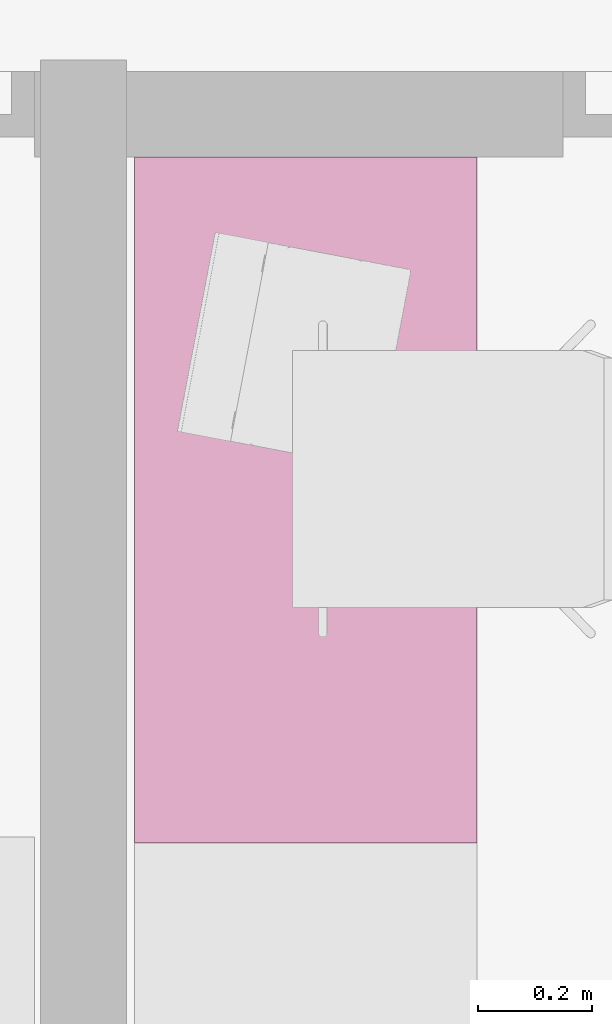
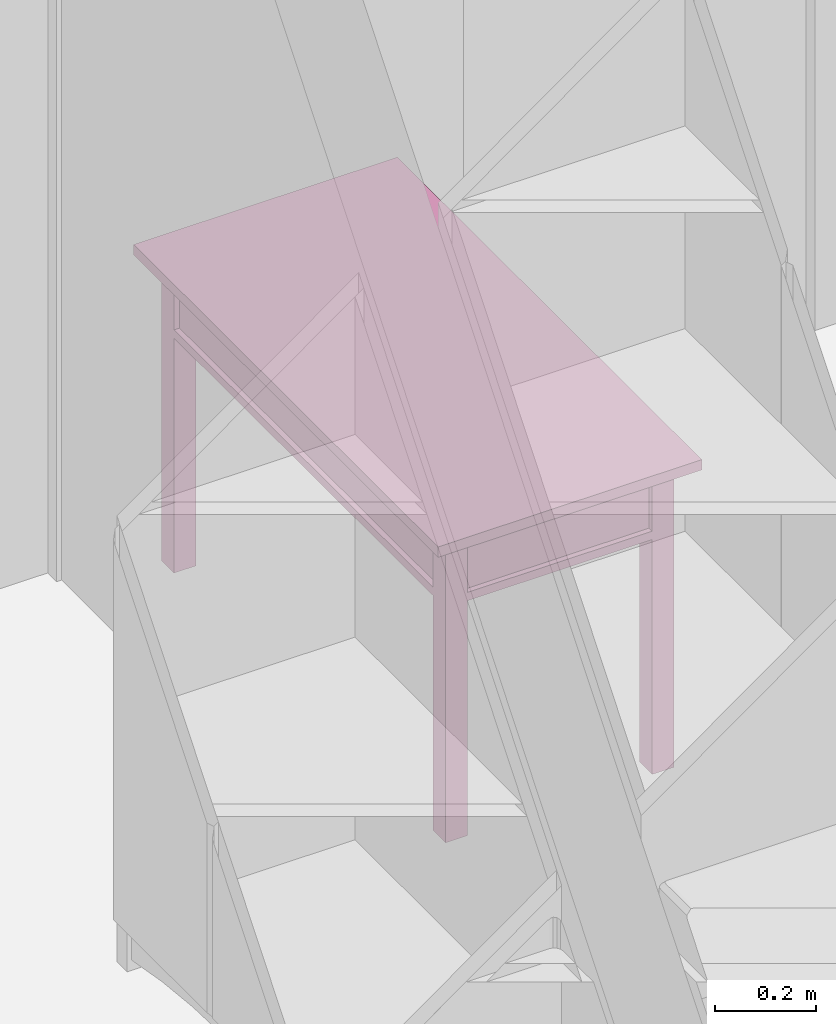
# One storey, part 124 of 165: 1 furnishing.
"""IFC2X3 building model written with IfcOpenShell, lengths in millimetres."""

from ifc_helpers import new_model, entity, si_unit, converted_unit, money_unit, direction, frame, origin_with_axes, place, context, subcontext, project, spatial, faceted_brep, source, transform, mapped, material, material_list, type_object, element, save


model = new_model("IFC2X3")

# Units and contexts
model_context = context("Model", 3, precision=1e-05, world=origin_with_axes(), true_north=direction((0.0, 1.0)))
body_context = subcontext(model_context, "Body", "Model", "MODEL_VIEW")
ifc_project = project(units=[si_unit("LENGTHUNIT", "METRE", prefix="MILLI"), si_unit("AREAUNIT", "SQUARE_METRE"), si_unit("VOLUMEUNIT", "CUBIC_METRE"), converted_unit("PLANEANGLEUNIT", "DEGREE", entity("IfcPlaneAngleMeasure", 0.0174532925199), si_unit("PLANEANGLEUNIT", "RADIAN"), dimensions=[0, 0, 0, 0, 0, 0, 0]), si_unit("SOLIDANGLEUNIT", "STERADIAN"), money_unit("USD"), converted_unit("TIMEUNIT", "Year", entity("IfcTimeMeasure", 31556926.0), si_unit("TIMEUNIT", "SECOND"), dimensions=[0, 0, 0, 0, 0, 0, 0]), si_unit("MASSUNIT", "GRAM"), si_unit("THERMODYNAMICTEMPERATUREUNIT", "DEGREE_CELSIUS"), si_unit("LUMINOUSINTENSITYUNIT", "LUMEN")], contexts=[model_context])

# Site, building, storey
site_placement = place(None, origin_with_axes())
site = spatial("IfcSite", under=ifc_project, at=site_placement, Name="Site", CompositionType="ELEMENT")
building_placement = place(site_placement, origin_with_axes())
building = spatial("IfcBuilding", under=site, at=building_placement, Name="Building", CompositionType="ELEMENT")
storey_placement = place(building_placement, frame((0.0, 0.0, 6300.0), z_axis=(0.0, 0.0, 1.0), x_axis=(1.0, 0.0, 0.0)))
storey = spatial("IfcBuildingStorey", under=building, at=storey_placement, Name="4KORRUS", CompositionType="ELEMENT", Elevation=6300.0)

# Furnishing
ifc_material = material(Name="Background")
ifc_material_list = material_list([ifc_material])
furnishing_element_type = type_object("IfcFurnishingElementType", Name="Rectangular Table 01 19")
shared_shape = source(origin_with_axes(), body_context, "Body", "Brep", [
    faceted_brep([(-90.0, 40.0, 0.0), (-90.0, 90.0, 0.0), (-40.0, 90.0, 0.0), (-40.0, 40.0, 0.0), (-90.0, 40.0, 725.0), (-90.0, 90.0, 725.0), (-40.0, 90.0, 725.0), (-40.0, 40.0, 725.0)], [[[0, 1, 2, 3]], [[0, 4, 5, 1]], [[1, 5, 6, 2]], [[2, 6, 7, 3]], [[3, 7, 4, 0]], [[7, 6, 5, 4]]]),
    faceted_brep([(-1160.0, 40.0, 0.0), (-1160.0, 90.0, 0.0), (-1110.0, 90.0, 0.0), (-1110.0, 40.0, 0.0), (-1160.0, 40.0, 725.0), (-1160.0, 90.0, 725.0), (-1110.0, 90.0, 725.0), (-1110.0, 40.0, 725.0)], [[[0, 1, 2, 3]], [[0, 4, 5, 1]], [[1, 5, 6, 2]], [[2, 6, 7, 3]], [[3, 7, 4, 0]], [[7, 6, 5, 4]]]),
    faceted_brep([(-90.0, 510.0, 0.0), (-90.0, 560.0, 0.0), (-40.0, 560.0, 0.0), (-40.0, 510.0, 0.0), (-90.0, 510.0, 725.0), (-90.0, 560.0, 725.0), (-40.0, 560.0, 725.0), (-40.0, 510.0, 725.0)], [[[0, 1, 2, 3]], [[0, 4, 5, 1]], [[1, 5, 6, 2]], [[2, 6, 7, 3]], [[3, 7, 4, 0]], [[7, 6, 5, 4]]]),
    faceted_brep([(-1160.0, 510.0, 0.0), (-1160.0, 560.0, 0.0), (-1110.0, 560.0, 0.0), (-1110.0, 510.0, 0.0), (-1160.0, 510.0, 725.0), (-1160.0, 560.0, 725.0), (-1110.0, 560.0, 725.0), (-1110.0, 510.0, 725.0)], [[[0, 1, 2, 3]], [[0, 4, 5, 1]], [[1, 5, 6, 2]], [[2, 6, 7, 3]], [[3, 7, 4, 0]], [[7, 6, 5, 4]]]),
    faceted_brep([(-1160.0, 40.0, 565.0), (-1160.0, 560.0, 565.0), (-40.0, 560.0, 565.0), (-40.0, 40.0, 565.0), (-1160.0, 40.0, 585.0), (-1160.0, 560.0, 585.0), (-40.0, 560.0, 585.0), (-40.0, 40.0, 585.0)], [[[0, 1, 2, 3]], [[0, 4, 5, 1]], [[1, 5, 6, 2]], [[2, 6, 7, 3]], [[3, 7, 4, 0]], [[7, 6, 5, 4]]]),
    faceted_brep([(-1110.0, 52.5, 585.0), (-1110.0, 77.5, 585.0), (-90.0, 77.5, 585.0), (-90.0, 52.5, 585.0), (-1110.0, 52.5, 745.0), (-1110.0, 77.5, 745.0), (-90.0, 77.5, 745.0), (-90.0, 52.5, 745.0)], [[[0, 1, 2, 3]], [[0, 4, 5, 1]], [[1, 5, 6, 2]], [[2, 6, 7, 3]], [[3, 7, 4, 0]], [[7, 6, 5, 4]]]),
    faceted_brep([(-77.5, 90.0, 585.0), (-77.5, 510.0, 585.0), (-52.5, 510.0, 585.0), (-52.5, 90.0, 585.0), (-77.5, 90.0, 745.0), (-77.5, 510.0, 745.0), (-52.5, 510.0, 745.0), (-52.5, 90.0, 745.0)], [[[0, 1, 2, 3]], [[0, 4, 5, 1]], [[1, 5, 6, 2]], [[2, 6, 7, 3]], [[3, 7, 4, 0]], [[7, 6, 5, 4]]]),
    faceted_brep([(-90.0, 547.5, 585.0), (-90.0, 522.5, 585.0), (-1110.0, 522.5, 585.0), (-1110.0, 547.5, 585.0), (-90.0, 547.5, 745.0), (-90.0, 522.5, 745.0), (-1110.0, 522.5, 745.0), (-1110.0, 547.5, 745.0)], [[[0, 1, 2, 3]], [[0, 4, 5, 1]], [[1, 5, 6, 2]], [[2, 6, 7, 3]], [[3, 7, 4, 0]], [[7, 6, 5, 4]]]),
    faceted_brep([(-1122.5, 510.0, 585.0), (-1122.5, 90.0, 585.0), (-1147.5, 90.0, 585.0), (-1147.5, 510.0, 585.0), (-1122.5, 510.0, 745.0), (-1122.5, 90.0, 745.0), (-1147.5, 90.0, 745.0), (-1147.5, 510.0, 745.0)], [[[0, 1, 2, 3]], [[0, 4, 5, 1]], [[1, 5, 6, 2]], [[2, 6, 7, 3]], [[3, 7, 4, 0]], [[7, 6, 5, 4]]]),
    faceted_brep([(-597.5, 40.0, 585.0), (-597.5, 60.0, 585.0), (-95.0, 60.0, 585.0), (-95.0, 40.0, 585.0), (-597.5, 40.0, 745.0), (-597.5, 60.0, 745.0), (-95.0, 60.0, 745.0), (-95.0, 40.0, 745.0)], [[[0, 1, 2, 3]], [[0, 4, 5, 1]], [[1, 5, 6, 2]], [[2, 6, 7, 3]], [[3, 7, 4, 0]], [[7, 6, 5, 4]]]),
    faceted_brep([(-1105.0, 40.0, 585.0), (-1105.0, 60.0, 585.0), (-602.5, 60.0, 585.0), (-602.5, 40.0, 585.0), (-1105.0, 40.0, 745.0), (-1105.0, 60.0, 745.0), (-602.5, 60.0, 745.0), (-602.5, 40.0, 745.0)], [[[0, 1, 2, 3]], [[0, 4, 5, 1]], [[1, 5, 6, 2]], [[2, 6, 7, 3]], [[3, 7, 4, 0]], [[7, 6, 5, 4]]]),
    faceted_brep([(-354.91, 40.0, 660.0), (-356.25, 40.0, 665.0), (-354.91, 40.0, 670.0), (-351.25, 40.0, 673.66), (-346.25, 40.0, 675.0), (-341.25, 40.0, 673.66), (-337.59, 40.0, 670.0), (-336.25, 40.0, 665.0), (-337.59, 40.0, 660.0), (-341.25, 40.0, 656.34), (-346.25, 40.0, 655.0), (-351.25, 40.0, 656.34), (-354.91, 25.0, 660.0), (-356.25, 25.0, 665.0), (-354.91, 25.0, 670.0), (-351.25, 25.0, 673.66), (-346.25, 25.0, 675.0), (-341.25, 25.0, 673.66), (-337.59, 25.0, 670.0), (-336.25, 25.0, 665.0), (-337.59, 25.0, 660.0), (-341.25, 25.0, 656.34), (-346.25, 25.0, 655.0), (-351.25, 25.0, 656.34)], [[[0, 1, 2, 3, 4, 5, 6, 7, 8, 9, 10, 11]], [[0, 12, 13, 1]], [[1, 13, 14, 2]], [[2, 14, 15, 3]], [[3, 15, 16, 4]], [[4, 16, 17, 5]], [[5, 17, 18, 6]], [[6, 18, 19, 7]], [[7, 19, 20, 8]], [[8, 20, 21, 9]], [[9, 21, 22, 10]], [[10, 22, 23, 11]], [[11, 23, 12, 0]], [[12, 23, 22, 21, 20, 19, 18, 17, 16, 15, 14, 13]]]),
    faceted_brep([(-356.25, 12.01, 665.0), (-354.91, 12.01, 660.0), (-346.25, 10.0, 665.0), (-363.571, 17.5, 665.0), (-361.25, 17.5, 656.34), (-351.25, 12.01, 656.34), (-354.91, 12.01, 670.0), (-366.25, 25.0, 665.0), (-363.571, 25.0, 655.0), (-354.91, 17.5, 650.0), (-361.25, 17.5, 673.66), (-346.25, 12.01, 655.0), (-351.25, 12.01, 673.66), (-363.571, 25.0, 675.0), (-356.25, 25.0, 682.321), (-346.25, 25.0, 685.0), (-336.25, 25.0, 682.321), (-328.929, 25.0, 675.0), (-326.25, 25.0, 665.0), (-328.929, 25.0, 655.0), (-336.25, 25.0, 647.679), (-346.25, 25.0, 645.0), (-356.25, 25.0, 647.679), (-346.25, 17.5, 647.679), (-354.91, 17.5, 680.0), (-341.25, 12.01, 656.34), (-346.25, 12.01, 675.0), (-346.25, 17.5, 682.321), (-337.59, 17.5, 680.0), (-331.25, 17.5, 673.66), (-328.929, 17.5, 665.0), (-331.25, 17.5, 656.34), (-337.59, 17.5, 650.0), (-337.59, 12.01, 660.0), (-341.25, 12.01, 673.66), (-337.59, 12.01, 670.0), (-336.25, 12.01, 665.0)], [[[0, 1, 2]], [[3, 4, 1, 0]], [[1, 5, 2]], [[6, 0, 2]], [[7, 8, 4, 3]], [[4, 9, 5, 1]], [[10, 3, 0, 6]], [[5, 11, 2]], [[12, 6, 2]], [[8, 7, 13, 14, 15, 16, 17, 18, 19, 20, 21, 22]], [[8, 22, 9, 4]], [[13, 7, 3, 10]], [[9, 23, 11, 5]], [[24, 10, 6, 12]], [[11, 25, 2]], [[26, 12, 2]], [[14, 13, 10, 24]], [[15, 14, 24, 27]], [[16, 15, 27, 28]], [[17, 16, 28, 29]], [[18, 17, 29, 30]], [[19, 18, 30, 31]], [[20, 19, 31, 32]], [[21, 20, 32, 23]], [[22, 21, 23, 9]], [[23, 32, 25, 11]], [[27, 24, 12, 26]], [[25, 33, 2]], [[34, 26, 2]], [[28, 27, 26, 34]], [[29, 28, 34, 35]], [[30, 29, 35, 36]], [[31, 30, 36, 33]], [[32, 31, 33, 25]], [[33, 36, 2]], [[35, 34, 2]], [[36, 35, 2]]]),
    faceted_brep([(-862.41, 40.0, 660.0), (-863.75, 40.0, 665.0), (-862.41, 40.0, 670.0), (-858.75, 40.0, 673.66), (-853.75, 40.0, 675.0), (-848.75, 40.0, 673.66), (-845.09, 40.0, 670.0), (-843.75, 40.0, 665.0), (-845.09, 40.0, 660.0), (-848.75, 40.0, 656.34), (-853.75, 40.0, 655.0), (-858.75, 40.0, 656.34), (-862.41, 25.0, 660.0), (-863.75, 25.0, 665.0), (-862.41, 25.0, 670.0), (-858.75, 25.0, 673.66), (-853.75, 25.0, 675.0), (-848.75, 25.0, 673.66), (-845.09, 25.0, 670.0), (-843.75, 25.0, 665.0), (-845.09, 25.0, 660.0), (-848.75, 25.0, 656.34), (-853.75, 25.0, 655.0), (-858.75, 25.0, 656.34)], [[[0, 1, 2, 3, 4, 5, 6, 7, 8, 9, 10, 11]], [[0, 12, 13, 1]], [[1, 13, 14, 2]], [[2, 14, 15, 3]], [[3, 15, 16, 4]], [[4, 16, 17, 5]], [[5, 17, 18, 6]], [[6, 18, 19, 7]], [[7, 19, 20, 8]], [[8, 20, 21, 9]], [[9, 21, 22, 10]], [[10, 22, 23, 11]], [[11, 23, 12, 0]], [[12, 23, 22, 21, 20, 19, 18, 17, 16, 15, 14, 13]]]),
    faceted_brep([(-863.75, 12.01, 665.0), (-862.41, 12.01, 660.0), (-853.75, 10.0, 665.0), (-871.071, 17.5, 665.0), (-868.75, 17.5, 656.34), (-858.75, 12.01, 656.34), (-862.41, 12.01, 670.0), (-873.75, 25.0, 665.0), (-871.071, 25.0, 655.0), (-862.41, 17.5, 650.0), (-868.75, 17.5, 673.66), (-853.75, 12.01, 655.0), (-858.75, 12.01, 673.66), (-871.071, 25.0, 675.0), (-863.75, 25.0, 682.321), (-853.75, 25.0, 685.0), (-843.75, 25.0, 682.321), (-836.429, 25.0, 675.0), (-833.75, 25.0, 665.0), (-836.429, 25.0, 655.0), (-843.75, 25.0, 647.679), (-853.75, 25.0, 645.0), (-863.75, 25.0, 647.679), (-853.75, 17.5, 647.679), (-862.41, 17.5, 680.0), (-848.75, 12.01, 656.34), (-853.75, 12.01, 675.0), (-853.75, 17.5, 682.321), (-845.09, 17.5, 680.0), (-838.75, 17.5, 673.66), (-836.429, 17.5, 665.0), (-838.75, 17.5, 656.34), (-845.09, 17.5, 650.0), (-845.09, 12.01, 660.0), (-848.75, 12.01, 673.66), (-845.09, 12.01, 670.0), (-843.75, 12.01, 665.0)], [[[0, 1, 2]], [[3, 4, 1, 0]], [[1, 5, 2]], [[6, 0, 2]], [[7, 8, 4, 3]], [[4, 9, 5, 1]], [[10, 3, 0, 6]], [[5, 11, 2]], [[12, 6, 2]], [[8, 7, 13, 14, 15, 16, 17, 18, 19, 20, 21, 22]], [[8, 22, 9, 4]], [[13, 7, 3, 10]], [[9, 23, 11, 5]], [[24, 10, 6, 12]], [[11, 25, 2]], [[26, 12, 2]], [[14, 13, 10, 24]], [[15, 14, 24, 27]], [[16, 15, 27, 28]], [[17, 16, 28, 29]], [[18, 17, 29, 30]], [[19, 18, 30, 31]], [[20, 19, 31, 32]], [[21, 20, 32, 23]], [[22, 21, 23, 9]], [[23, 32, 25, 11]], [[27, 24, 12, 26]], [[25, 33, 2]], [[34, 26, 2]], [[28, 27, 26, 34]], [[29, 28, 34, 35]], [[30, 29, 35, 36]], [[31, 30, 36, 33]], [[32, 31, 33, 25]], [[33, 36, 2]], [[35, 34, 2]], [[36, 35, 2]]]),
    faceted_brep([(-1200.0, 0.0, 725.0), (-1200.0, 600.0, 725.0), (0.0, 600.0, 725.0), (0.0, 0.0, 725.0), (-1200.0, 0.0, 750.0), (-1200.0, 600.0, 750.0), (0.0, 600.0, 750.0), (0.0, 0.0, 750.0)], [[[0, 1, 2, 3]], [[0, 4, 5, 1]], [[1, 5, 6, 2]], [[2, 6, 7, 3]], [[3, 7, 4, 0]], [[7, 6, 5, 4]]]),
])
furnishing_placement = place(storey_placement, frame((3559.70329669, -15439.2398994, 0.0), z_axis=(0.0, 0.0, 1.0), x_axis=(0.0, 1.0, 0.0)))
element("IfcFurnishingElement", 1, at=furnishing_placement, inside=storey, type_object=furnishing_element_type, material=ifc_material_list, Name="FU - 011", context=body_context, shape_type="MappedRepresentation", body=[
    mapped(shared_shape, transform((0.0, 0.0, 0.0))),
])

save(model, "model.ifc")
